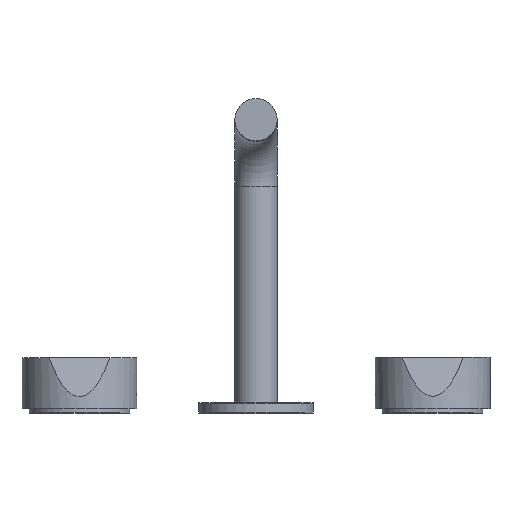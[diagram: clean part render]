
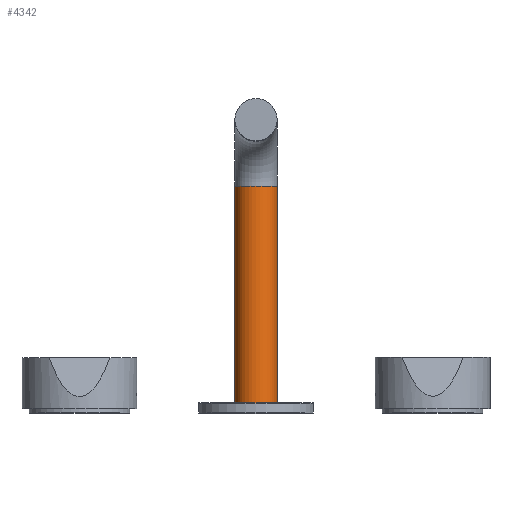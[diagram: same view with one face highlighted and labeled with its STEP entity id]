
A CAD part, top view. The second image highlights one B-rep face of the part: STEP entity #4342.
In plain terms, the highlighted cylindrical face has radius 12 mm (diameter 24 mm), a partial arc.
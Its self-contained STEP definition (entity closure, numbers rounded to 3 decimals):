
#2742=DIRECTION('',(0.,-1.,0.));
#2743=VECTOR('',#2742,122.5);
#2744=CARTESIAN_POINT('',(112.,128.5,0.));
#2745=LINE('',#2744,#2743);
#2746=DIRECTION('',(0.,-1.,0.));
#2747=VECTOR('',#2746,122.5);
#2748=CARTESIAN_POINT('',(88.,128.5,0.));
#2749=LINE('',#2748,#2747);
#2765=CARTESIAN_POINT('',(100.,6.,0.));
#2766=DIRECTION('',(0.,-1.,0.));
#2767=DIRECTION('',(1.,0.,0.));
#2768=AXIS2_PLACEMENT_3D('',#2765,#2766,#2767);
#2880=CARTESIAN_POINT('',(100.,128.5,0.));
#2881=DIRECTION('',(0.,-1.,0.));
#2882=DIRECTION('',(1.,0.,0.));
#2883=AXIS2_PLACEMENT_3D('',#2880,#2881,#2882);
#3041=CARTESIAN_POINT('',(112.,128.5,0.));
#3043=VERTEX_POINT('',#3041);
#3049=CARTESIAN_POINT('',(88.,128.5,0.));
#3050=VERTEX_POINT('',#3049);
#3066=CARTESIAN_POINT('',(88.,6.,0.));
#3067=CARTESIAN_POINT('',(112.,6.,0.));
#3068=VERTEX_POINT('',#3066);
#3069=VERTEX_POINT('',#3067);
#4329=CARTESIAN_POINT('',(100.,6.,0.));
#4330=DIRECTION('',(0.,-1.,0.));
#4331=DIRECTION('',(-1.,0.,0.));
#4332=AXIS2_PLACEMENT_3D('',#4329,#4330,#4331);
#4333=CYLINDRICAL_SURFACE('',#4332,12.);
#4335=ORIENTED_EDGE('',*,*,#4334,.T.);
#4336=ORIENTED_EDGE('',*,*,#4315,.F.);
#4338=ORIENTED_EDGE('',*,*,#4337,.F.);
#4339=ORIENTED_EDGE('',*,*,#4312,.T.);
#4340=EDGE_LOOP('',(#4335,#4336,#4338,#4339));
#4341=FACE_OUTER_BOUND('',#4340,.F.);
#2769=CIRCLE('',#2768,12.);
#2884=CIRCLE('',#2883,12.);
#4312=EDGE_CURVE('',#3043,#3069,#2745,.T.);
#4315=EDGE_CURVE('',#3050,#3068,#2749,.T.);
#4334=EDGE_CURVE('',#3069,#3068,#2769,.T.);
#4337=EDGE_CURVE('',#3043,#3050,#2884,.T.);
#4342=ADVANCED_FACE('',(#4341),#4333,.T.);
